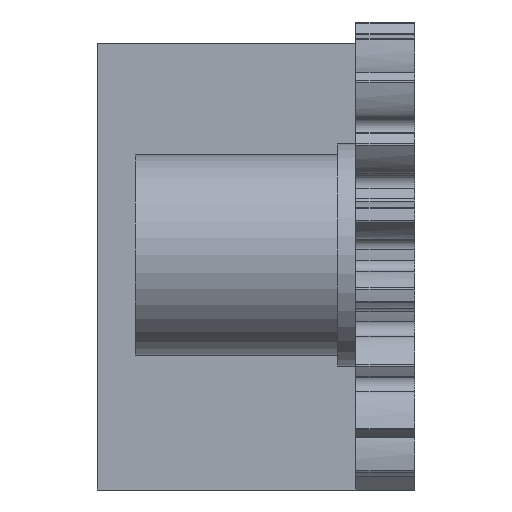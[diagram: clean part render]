
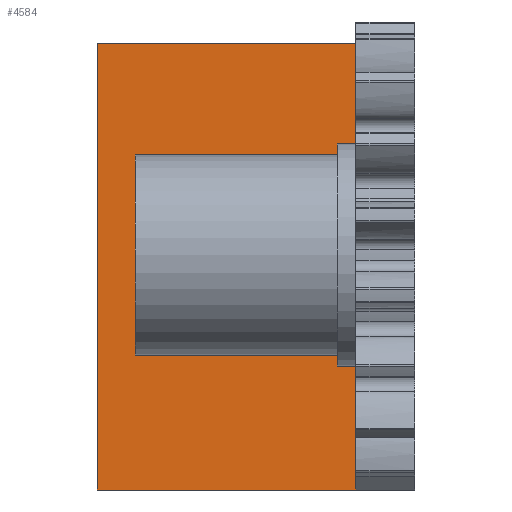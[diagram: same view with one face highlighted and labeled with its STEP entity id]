
A CAD part, front view. The second image highlights one B-rep face of the part: STEP entity #4584.
In plain terms, the highlighted planar face has unit normal (0, -1, 0).
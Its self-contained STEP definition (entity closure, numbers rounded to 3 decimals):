
#256 = VERTEX_POINT ( 'NONE', #5236 ) ;
#372 = LINE ( 'NONE', #2564, #1176 ) ;
#435 = CARTESIAN_POINT ( 'NONE',  ( -5., 29., -56. ) ) ;
#552 = DIRECTION ( 'NONE',  ( 0., 0., 1. ) ) ;
#628 = ORIENTED_EDGE ( 'NONE', *, *, #4814, .F. ) ;
#920 = EDGE_CURVE ( 'NONE', #4787, #256, #372, .T. ) ;
#989 = EDGE_LOOP ( 'NONE', ( #2154, #628, #1380, #3984 ) ) ;
#1176 = VECTOR ( 'NONE', #2957, 1000. ) ;
#1221 = FACE_OUTER_BOUND ( 'NONE', #989, .T. ) ;
#1248 = VECTOR ( 'NONE', #2484, 1000. ) ;
#1290 = EDGE_CURVE ( 'NONE', #2738, #2304, #5194, .T. ) ;
#1380 = ORIENTED_EDGE ( 'NONE', *, *, #1290, .F. ) ;
#1394 = CARTESIAN_POINT ( 'NONE',  ( -27., 29., -36. ) ) ;
#1638 = DIRECTION ( 'NONE',  ( 0., -1., 0. ) ) ;
#1648 = CARTESIAN_POINT ( 'NONE',  ( -27., 29., -18. ) ) ;
#2129 = PLANE ( 'NONE',  #2850 ) ;
#2154 = ORIENTED_EDGE ( 'NONE', *, *, #920, .T. ) ;
#2304 = VERTEX_POINT ( 'NONE', #2729 ) ;
#2484 = DIRECTION ( 'NONE',  ( 1., 0., 0. ) ) ;
#2544 = CARTESIAN_POINT ( 'NONE',  ( -27., 29., -36. ) ) ;
#2564 = CARTESIAN_POINT ( 'NONE',  ( -5., 29., -36. ) ) ;
#2729 = CARTESIAN_POINT ( 'NONE',  ( -27., 29., -18. ) ) ;
#2738 = VERTEX_POINT ( 'NONE', #4386 ) ;
#2850 = AXIS2_PLACEMENT_3D ( 'NONE', #2544, #1638, #5039 ) ;
#2957 = DIRECTION ( 'NONE',  ( 0., 0., 1. ) ) ;
#3756 = CARTESIAN_POINT ( 'NONE',  ( -27., 29., -56. ) ) ;
#3781 = LINE ( 'NONE', #3756, #1248 ) ;
#3984 = ORIENTED_EDGE ( 'NONE', *, *, #4821, .T. ) ;
#4386 = CARTESIAN_POINT ( 'NONE',  ( -27., 29., -56. ) ) ;
#4584 = ADVANCED_FACE ( 'NONE', ( #1221 ), #2129, .T. ) ;
#4593 = LINE ( 'NONE', #1648, #4969 ) ;
#4787 = VERTEX_POINT ( 'NONE', #435 ) ;
#4814 = EDGE_CURVE ( 'NONE', #2304, #256, #4593, .T. ) ;
#4821 = EDGE_CURVE ( 'NONE', #2738, #4787, #3781, .T. ) ;
#4969 = VECTOR ( 'NONE', #5028, 1000. ) ;
#5028 = DIRECTION ( 'NONE',  ( 1., 0., 0. ) ) ;
#5039 = DIRECTION ( 'NONE',  ( 0., 0., 1. ) ) ;
#5194 = LINE ( 'NONE', #1394, #5288 ) ;
#5236 = CARTESIAN_POINT ( 'NONE',  ( -5., 29., -18. ) ) ;
#5288 = VECTOR ( 'NONE', #552, 1000. ) ;
